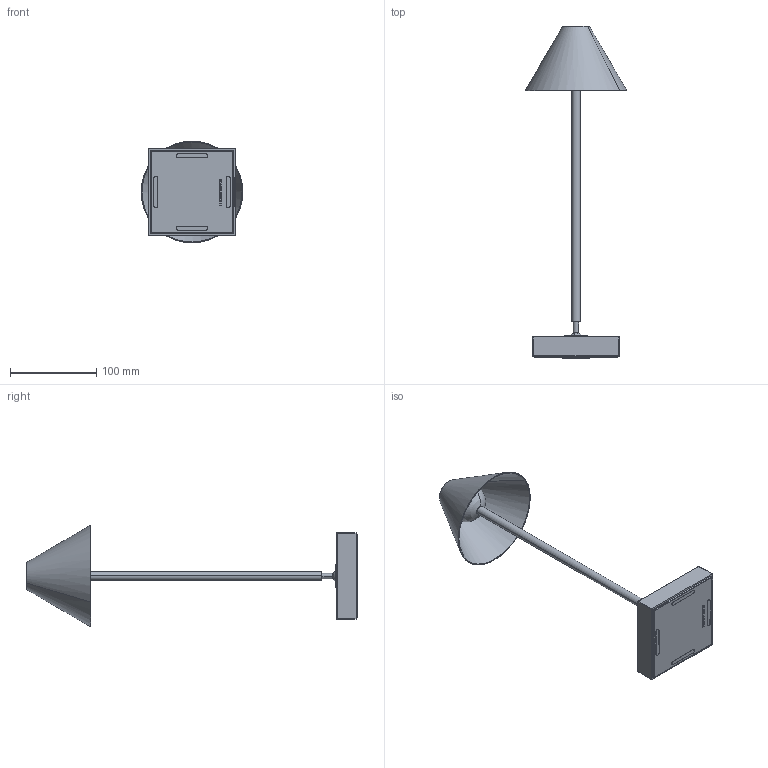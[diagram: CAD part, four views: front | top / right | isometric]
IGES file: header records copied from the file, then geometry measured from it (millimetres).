
Start section: SolidWorks IGES file using analytic representation for surfaces
Global section: file name: C:\SANTACOLE_PDM\Proyectos Catálogo\PROD-P22-002 -- GIRA MÍNIMA BATERÍA\6_Técnico comercial\3D\C-23-0134.IGS; native system: SolidWorks 2024; preprocessor: SolidWorks 2024; author: clara.galimany; date: 260723.115020; units: millimetre
Bounding box: 117.87 x 385 x 117.87 mm (x, y, z)
Surface area: 122126.4 mm2 (no closed solid volume)
Topology: 0 solids, 0 shells, 549 faces, 5515 edges, 5488 vertices
Faces by surface type: bspline 346, revolution 203
